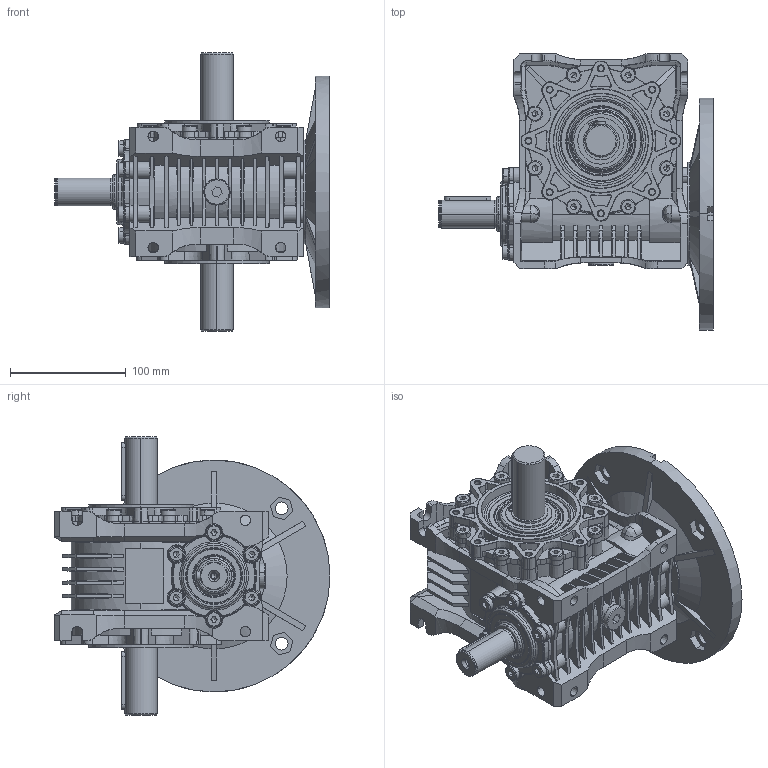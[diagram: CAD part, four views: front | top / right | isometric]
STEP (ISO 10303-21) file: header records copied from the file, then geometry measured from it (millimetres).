
FILE_DESCRIPTION (( 'STEP AP203' ), '1' );
FILE_NAME ('MR-63_200-24_WD_3D.STEP', '2023-09-26T12:03:27', ( '' ), ( '' ), 'SwSTEP 2.0', 'SolidWorks 2022', '' );
FILE_SCHEMA (( 'CONFIG_CONTROL_DESIGN' ));
Length unit declared in the file: millimetre
Products named in the file (1): MR-63_200-24_WD_3D
Bounding box: 237 x 238 x 240 mm (x, y, z)
Volume: 2358579.4 mm3; surface area: 386266.7 mm2
Topology: 1 solids, 56 shells, 3564 faces, 8897 edges, 5498 vertices
Faces by surface type: plane 1303, cone 830, cylinder 670, bspline 334, torus 330, sphere 97
Entity records: 115037 total; most frequent: CARTESIAN_POINT 33097, ORIENTED_EDGE 17594, DIRECTION 16879, EDGE_CURVE 8797, AXIS2_PLACEMENT_3D 6534, VERTEX_POINT 5498, VECTOR 3811, LINE 3811
